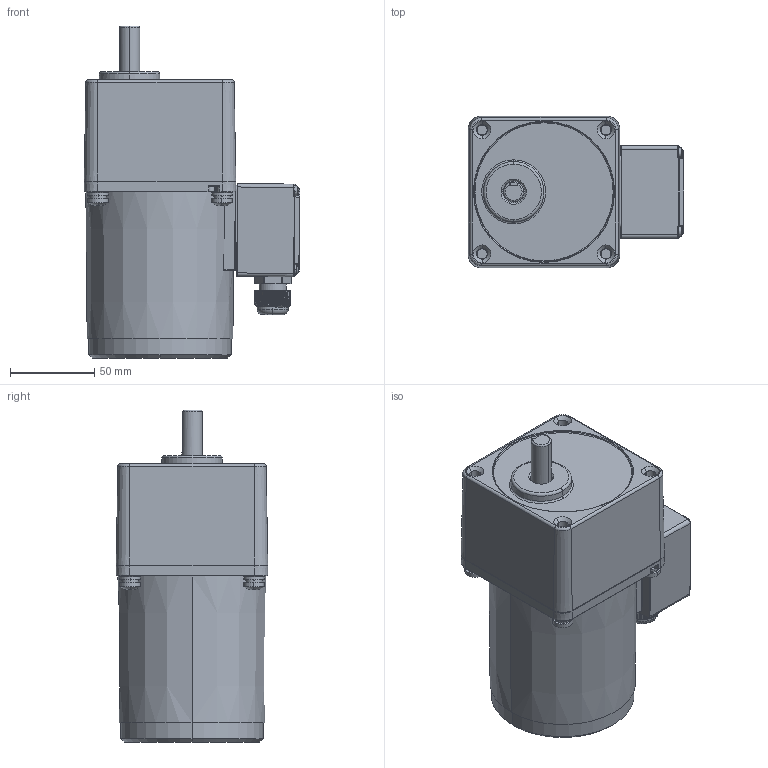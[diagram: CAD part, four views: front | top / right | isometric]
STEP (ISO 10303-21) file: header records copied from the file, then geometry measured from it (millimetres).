
FILE_DESCRIPTION (( 'STEP AP203' ), '1' );
FILE_NAME ('5IK40GN-CT(5GN3K-200K).STEP', '2023-08-08T05:24:10', ( 'Windows User' ), ( 'P R C' ), 'SwSTEP 2.0', 'SolidWorks 2019', '' );
FILE_SCHEMA (( 'CONFIG_CONTROL_DESIGN' ));
Length unit declared in the file: millimetre
Products named in the file (14): 葩璃 (3) ^____5IK40GN-CT(5GN3K-200K)(2)_5IK40GN-CT(5GN3K-200K); 5GN3K__200K^5IK40GN-CT(5GN3K-200K)(2)_5IK40GN-CT(5GN3K-200K); ^__5IK40GN-CT(5GN3K-200K)(2)_5IK40GN-CT(5GN3K-200K); ^5IK40GN-CT(5GN3K-200K)(2)_5IK40GN-CT(5GN3K-200K); 5IK40GN-CT(5GN3K-200K); ^_5IK40GN-CT(5GN3K-200K)(2)_5IK40GN-CT(5GN3K-200K); 5IK40GN-CT(5GN3K-200K)(2)^5IK40GN-CT(5GN3K-200K); 葩璃 (4) ^____5IK40GN-CT(5GN3K-200K)(2)_5IK40GN-CT(5GN3K-200K); 葩璃 (6) ^____5IK40GN-CT(5GN3K-200K)(2)_5IK40GN-CT(5GN3K-200K); 葩璃 (5) ^____5IK40GN-CT(5GN3K-200K)(2)_5IK40GN-CT(5GN3K-200K); 葩璃 (2) ^____5IK40GN-CT(5GN3K-200K)(2)_5IK40GN-CT(5GN3K-200K); ^___5IK40GN-CT(5GN3K-200K)(2)_5IK40GN-CT(5GN3K-200K); ^____5IK40GN-CT(5GN3K-200K)(2)_5IK40GN-CT(5GN3K-200K)
Assembly tree (13 placements, depth 7):
  5IK40GN-CT(5GN3K-200K)
    5IK40GN-CT(5GN3K-200K)(2)^5IK40GN-CT(5GN3K-200K)
      ^5IK40GN-CT(5GN3K-200K)(2)_5IK40GN-CT(5GN3K-200K)
        ^_5IK40GN-CT(5GN3K-200K)(2)_5IK40GN-CT(5GN3K-200K)
          ^__5IK40GN-CT(5GN3K-200K)(2)_5IK40GN-CT(5GN3K-200K)
            ^___5IK40GN-CT(5GN3K-200K)(2)_5IK40GN-CT(5GN3K-200K)
              ^____5IK40GN-CT(5GN3K-200K)(2)_5IK40GN-CT(5GN3K-200K)
              葩璃 (2) ^____5IK40GN-CT(5GN3K-200K)(2)_5IK40GN-CT(5GN3K-200K)
              葩璃 (3) ^____5IK40GN-CT(5GN3K-200K)(2)_5IK40GN-CT(5GN3K-200K)
              葩璃 (4) ^____5IK40GN-CT(5GN3K-200K)(2)_5IK40GN-CT(5GN3K-200K)
              葩璃 (5) ^____5IK40GN-CT(5GN3K-200K)(2)_5IK40GN-CT(5GN3K-200K)
              葩璃 (6) ^____5IK40GN-CT(5GN3K-200K)(2)_5IK40GN-CT(5GN3K-200K)
          ^__5IK40GN-CT(5GN3K-200K)(2)_5IK40GN-CT(5GN3K-200K)
      5GN3K__200K^5IK40GN-CT(5GN3K-200K)(2)_5IK40GN-CT(5GN3K-200K)
Bounding box: 127.95 x 90 x 197 mm (x, y, z)
Volume: 1231782.5 mm3; surface area: 125447.7 mm2
Topology: 38 solids, 38 shells, 1676 faces, 4274 edges, 2682 vertices
Faces by surface type: cylinder 609, plane 473, cone 360, torus 96, sphere 92, bspline 46
Entity records: 57775 total; most frequent: CARTESIAN_POINT 15355, DIRECTION 9170, ORIENTED_EDGE 8448, EDGE_CURVE 4224, AXIS2_PLACEMENT_3D 3795, VERTEX_POINT 2678, CIRCLE 2144, EDGE_LOOP 1764
